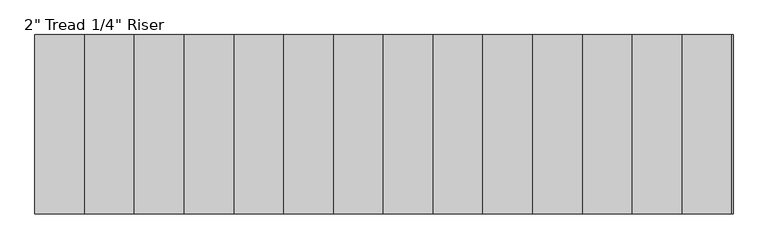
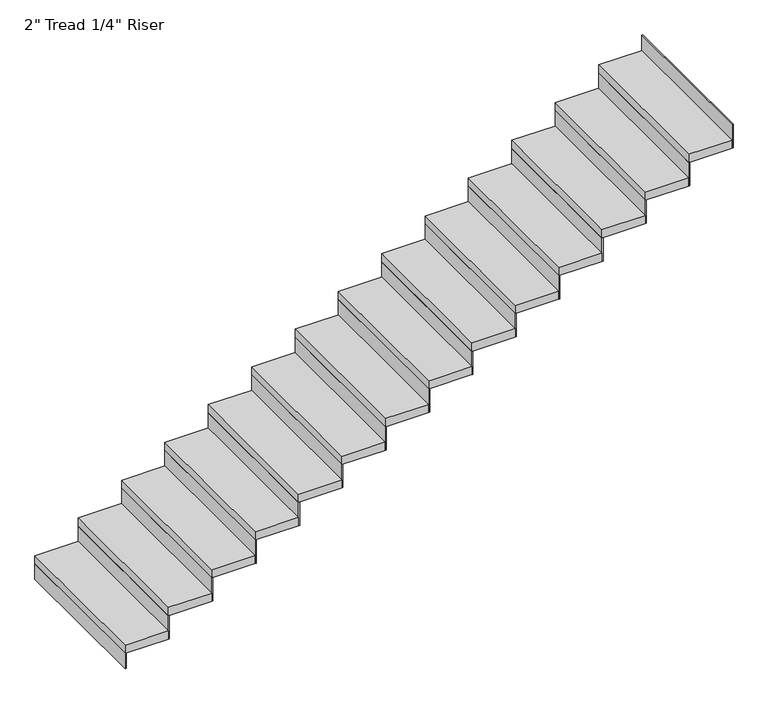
"""IFC4 building model written with IfcOpenShell, lengths in millimetres: stair flight geometry."""

import ifcopenshell
import ifcopenshell.guid

model = None  # the IFC model being written
_history = None  # IfcOwnerHistory: only IFC2X3 demands one
_inside = {}  # id of a spatial element -> (the spatial element, [elements in it])
_under = {}  # id of a project, library or spatial element -> (it, [spatial elements below it])
_declared = {}  # id of a project -> (the project, [libraries it declares])
_typed = {}  # id of a type object -> (the type object, [elements of that type])
_made_of = {}  # id of a material, layer set ... -> (it, [elements and type objects made of it])


def new_model(schema):
    """Start an empty IFC model of exactly this schema.

    Asked for "IFC4X3", IfcOpenShell would pick the latest addendum, in which some entities
    have other attributes; the version numbers below select the first issue.
    IFC2X3 requires an IfcOwnerHistory on every rooted entity: one is made here for all.
    """
    global model, _history
    if schema == "IFC4X3":
        model = ifcopenshell.file(schema_version=(4, 3, 0, 0))
    else:
        model = ifcopenshell.file(schema=schema)
    _inside.clear()
    _under.clear()
    _declared.clear()
    _typed.clear()
    _made_of.clear()
    _history = None
    if model.schema == "IFC2X3":
        org = make("IfcOrganization", Name="unknown")
        user = make(
            "IfcPersonAndOrganization",
            ThePerson=make("IfcPerson", FamilyName="unknown"),
            TheOrganization=org,
        )
        app = make(
            "IfcApplication",
            ApplicationDeveloper=org,
            Version="unknown",
            ApplicationFullName="unknown",
            ApplicationIdentifier="unknown",
        )
        _history = make(
            "IfcOwnerHistory",
            OwningUser=user,
            OwningApplication=app,
            ChangeAction="ADDED",
            CreationDate=0,
        )
    return model


def make(cls, **values):
    """One entity of the class cls with the attributes given. An attribute that is None is left unset."""
    return model.create_entity(
        cls, **{name: value for name, value in values.items() if value is not None}
    )


def rooted(cls, **values):
    """An entity with a GlobalId (a new one), such as an element, a storey or a relation."""
    return make(cls, GlobalId=ifcopenshell.guid.new(), OwnerHistory=_history, **values)


def si_unit(unit_type, name, prefix=None):
    """IfcSIUnit, for example si_unit("LENGTHUNIT", "METRE", prefix="MILLI")."""
    return make("IfcSIUnit", UnitType=unit_type, Prefix=prefix, Name=name)


def assignment(units):
    """IfcUnitAssignment: the units of a project."""
    return None if units is None else make("IfcUnitAssignment", Units=units)


def point(xyz):
    """IfcCartesianPoint."""
    return None if xyz is None else make("IfcCartesianPoint", Coordinates=xyz)


def direction(xyz):
    """IfcDirection."""
    return None if xyz is None else make("IfcDirection", DirectionRatios=xyz)


def frame(location, z_axis=None, x_axis=None):
    """IfcAxis2Placement3D, a coordinate frame: its origin and axes. An axis left out is left unset."""
    return make(
        "IfcAxis2Placement3D",
        Location=point(location),
        Axis=direction(z_axis),
        RefDirection=direction(x_axis),
    )


def origin():
    """The frame at (0, 0, 0) with its axes left unset."""
    return frame((0.0, 0.0, 0.0))


def origin_with_axes():
    """The frame at (0, 0, 0) with the z axis (0, 0, 1) and the x axis (1, 0, 0) written out."""
    return frame((0.0, 0.0, 0.0), z_axis=(0.0, 0.0, 1.0), x_axis=(1.0, 0.0, 0.0))


def place(relative_to, where):
    """IfcLocalPlacement: puts the frame where relative to a parent placement (None: the world)."""
    return make(
        "IfcLocalPlacement", PlacementRelTo=relative_to, RelativePlacement=where
    )


def context(
    kind, dimensions, precision=None, world=None, true_north=None, identifier=None
):
    """IfcGeometricRepresentationContext, for example the 3D "Model" context."""
    return make(
        "IfcGeometricRepresentationContext",
        ContextIdentifier=identifier,
        ContextType=kind,
        CoordinateSpaceDimension=dimensions,
        Precision=precision,
        WorldCoordinateSystem=world,
        TrueNorth=true_north,
    )


def project(units=None, contexts=None):
    """IfcProject with its units and contexts."""
    return rooted(
        "IfcProject",
        Name="project",
        RepresentationContexts=contexts,
        UnitsInContext=assignment(units),
    )


def spatial(cls, under=None, at=None, **own):
    """A site, building, storey or space (cls), placed at a placement, below another one or the project."""
    s = rooted(cls, ObjectPlacement=at, **own)
    if under is not None:
        _under.setdefault(under.id(), (under, []))[1].append(s)
    return s


def polyline(points):
    """IfcPolyline through the points."""
    return make("IfcPolyline", Points=[point(p) for p in points])


def outline(outer, holes=None, kind="AREA"):
    """IfcArbitraryClosedProfileDef: a profile drawn as a closed curve; with holes, ...WithVoids."""
    if holes is None:
        return make("IfcArbitraryClosedProfileDef", ProfileType=kind, OuterCurve=outer)
    return make(
        "IfcArbitraryProfileDefWithVoids",
        ProfileType=kind,
        OuterCurve=outer,
        InnerCurves=holes,
    )


def extrude(swept, where, along, depth):
    """IfcExtrudedAreaSolid: the profile swept, set in the frame where, extruded along a direction by depth."""
    return make(
        "IfcExtrudedAreaSolid",
        SweptArea=swept,
        Position=where,
        ExtrudedDirection=direction(along),
        Depth=depth,
    )


def shape(context_of_items, identifier, shape_type, items):
    """IfcShapeRepresentation: the items that make up one representation, for example the "Body"."""
    return make(
        "IfcShapeRepresentation",
        ContextOfItems=context_of_items,
        RepresentationIdentifier=identifier,
        RepresentationType=shape_type,
        Items=items,
    )


def source(mapping_origin, context_of_items, identifier, shape_type, items):
    """IfcRepresentationMap: a shape defined once, which mapped items show again and again."""
    return make(
        "IfcRepresentationMap",
        MappingOrigin=mapping_origin,
        MappedRepresentation=shape(context_of_items, identifier, shape_type, items),
    )


def transform(
    local_origin,
    x_axis=None,
    y_axis=None,
    z_axis=None,
    scale=None,
    scale2=None,
    scale3=None,
    uniform=True,
):
    """IfcCartesianTransformationOperator3D, or its non-uniform kind. x_axis, y_axis, z_axis: its Axis1, 2, 3."""
    if uniform:
        return make(
            "IfcCartesianTransformationOperator3D",
            Axis1=direction(x_axis),
            Axis2=direction(y_axis),
            LocalOrigin=point(local_origin),
            Scale=scale,
            Axis3=direction(z_axis),
        )
    return make(
        "IfcCartesianTransformationOperator3DnonUniform",
        Axis1=direction(x_axis),
        Axis2=direction(y_axis),
        LocalOrigin=point(local_origin),
        Scale=scale,
        Axis3=direction(z_axis),
        Scale2=scale2,
        Scale3=scale3,
    )


def mapped(mapping_source, mapping_target):
    """IfcMappedItem: shows the shape of a source again, moved by a transform."""
    return make(
        "IfcMappedItem", MappingSource=mapping_source, MappingTarget=mapping_target
    )


def made_of(thing, what):
    """Note that an element or type object is made of a material, layer set ...; save() writes the relation."""
    if what is not None:
        _made_of.setdefault(what.id(), (what, []))[1].append(thing)
    return thing


def element(
    cls,
    number,
    at=None,
    inside=None,
    cuts=None,
    type_object=None,
    material=None,
    context=None,
    identifier="Body",
    shape_type=None,
    held_by="IfcProductDefinitionShape",
    body=None,
    shapes=None,
    **own,
):
    """One element of the class cls, such as IfcWall. Its Tag is "e" and its number.

    at: its placement. inside: the storey or other place that contains it. cuts: it is an
    opening in that element (IfcRelVoidsElement). A single representation is given by context,
    identifier, shape_type and body (its items); several are given by shapes. held_by: the class
    of the entity that holds the representations. save() writes the other relations.
    """
    e = rooted(cls, Tag="e%d" % number, ObjectPlacement=at, **own)
    if body is not None:
        shapes = [shape(context, identifier, shape_type, body)]
    if shapes is not None:
        e.Representation = make(held_by, Representations=shapes)
    if inside is not None:
        _inside.setdefault(inside.id(), (inside, []))[1].append(e)
    if cuts is not None:
        rooted(
            "IfcRelVoidsElement", RelatingBuildingElement=cuts, RelatedOpeningElement=e
        )
    if type_object is not None:
        _typed.setdefault(type_object.id(), (type_object, []))[1].append(e)
    return made_of(e, material)


def aggregate(whole, parts):
    """IfcRelAggregates: a whole, such as a stair, and the parts it consists of."""
    return rooted("IfcRelAggregates", RelatingObject=whole, RelatedObjects=parts)


def save(model, path):
    """Write the relations noted so far, then the file.

    IfcRelAggregates (storeys below a building ...), IfcRelContainedInSpatialStructure (elements
    in a storey), IfcRelDefinesByType, IfcRelAssociatesMaterial and IfcRelDeclares: one each for
    every whole, place, type object, material and project.
    """
    for whole, parts in _under.values():
        aggregate(whole, parts)
    for where, things in _inside.values():
        rooted(
            "IfcRelContainedInSpatialStructure",
            RelatedElements=things,
            RelatingStructure=where,
        )
    for kind, things in _typed.values():
        rooted("IfcRelDefinesByType", RelatedObjects=things, RelatingType=kind)
    for what, things in _made_of.values():
        rooted("IfcRelAssociatesMaterial", RelatedObjects=things, RelatingMaterial=what)
    for by, libraries in _declared.values():
        rooted("IfcRelDeclares", RelatingContext=by, RelatedDefinitions=libraries)
    model.write(path)


def stair_flight_662a255a(model_context):
    return source(origin(), model_context, "Body", "SweptSolid", [
        extrude(outline(polyline([(-2451.0963139, 28700.5361774), (-2457.4463139, 28700.5361774), (-2457.4463139, 29614.9361774), (-2451.0963139, 29614.9361774), (-2451.0963139, 28700.5361774)])), origin_with_axes(), (0.0, 0.0, 1.0), 94.3428571),
        extrude(outline(polyline([(-2203.4463139, 29614.9361774), (-2203.4463139, 28700.5361774), (-2457.4463139, 28700.5361774), (-2457.4463139, 29614.9361774), (-2203.4463139, 29614.9361774)])), frame((0.0, 0.0, 94.3428571), z_axis=(0.0, 0.0, 1.0), x_axis=(1.0, 0.0, 0.0)), (0.0, 0.0, 1.0), 50.8),
        extrude(outline(polyline([(-2197.0963139, 28700.5361774), (-2203.4463139, 28700.5361774), (-2203.4463139, 29614.9361774), (-2197.0963139, 29614.9361774), (-2197.0963139, 28700.5361774)])), frame((0.0, 0.0, 94.3428571), z_axis=(0.0, 0.0, 1.0), x_axis=(1.0, 0.0, 0.0)), (0.0, 0.0, 1.0), 145.1428571),
        extrude(outline(polyline([(-1949.4463139, 29614.9361774), (-1949.4463139, 28700.5361774), (-2203.4463139, 28700.5361774), (-2203.4463139, 29614.9361774), (-1949.4463139, 29614.9361774)])), frame((0.0, 0.0, 239.4857143), z_axis=(0.0, 0.0, 1.0), x_axis=(1.0, 0.0, 0.0)), (0.0, 0.0, 1.0), 50.8),
        extrude(outline(polyline([(-1943.0963139, 28700.5361774), (-1949.4463139, 28700.5361774), (-1949.4463139, 29614.9361774), (-1943.0963139, 29614.9361774), (-1943.0963139, 28700.5361774)])), frame((0.0, 0.0, 239.4857143), z_axis=(0.0, 0.0, 1.0), x_axis=(1.0, 0.0, 0.0)), (0.0, 0.0, 1.0), 145.1428571),
        extrude(outline(polyline([(-1695.4463139, 29614.9361774), (-1695.4463139, 28700.5361774), (-1949.4463139, 28700.5361774), (-1949.4463139, 29614.9361774), (-1695.4463139, 29614.9361774)])), frame((0.0, 0.0, 384.6285714), z_axis=(0.0, 0.0, 1.0), x_axis=(1.0, 0.0, 0.0)), (0.0, 0.0, 1.0), 50.8),
        extrude(outline(polyline([(-1689.0963139, 28700.5361774), (-1695.4463139, 28700.5361774), (-1695.4463139, 29614.9361774), (-1689.0963139, 29614.9361774), (-1689.0963139, 28700.5361774)])), frame((0.0, 0.0, 384.6285714), z_axis=(0.0, 0.0, 1.0), x_axis=(1.0, 0.0, 0.0)), (0.0, 0.0, 1.0), 145.1428571),
        extrude(outline(polyline([(-1441.4463139, 29614.9361774), (-1441.4463139, 28700.5361774), (-1695.4463139, 28700.5361774), (-1695.4463139, 29614.9361774), (-1441.4463139, 29614.9361774)])), frame((0.0, 0.0, 529.7714286), z_axis=(0.0, 0.0, 1.0), x_axis=(1.0, 0.0, 0.0)), (0.0, 0.0, 1.0), 50.8),
        extrude(outline(polyline([(-1435.0963139, 28700.5361774), (-1441.4463139, 28700.5361774), (-1441.4463139, 29614.9361774), (-1435.0963139, 29614.9361774), (-1435.0963139, 28700.5361774)])), frame((0.0, 0.0, 529.7714286), z_axis=(0.0, 0.0, 1.0), x_axis=(1.0, 0.0, 0.0)), (0.0, 0.0, 1.0), 145.1428571),
        extrude(outline(polyline([(-1187.4463139, 29614.9361774), (-1187.4463139, 28700.5361774), (-1441.4463139, 28700.5361774), (-1441.4463139, 29614.9361774), (-1187.4463139, 29614.9361774)])), frame((0.0, 0.0, 674.9142857), z_axis=(0.0, 0.0, 1.0), x_axis=(1.0, 0.0, 0.0)), (0.0, 0.0, 1.0), 50.8),
        extrude(outline(polyline([(-1181.0963139, 28700.5361774), (-1187.4463139, 28700.5361774), (-1187.4463139, 29614.9361774), (-1181.0963139, 29614.9361774), (-1181.0963139, 28700.5361774)])), frame((0.0, 0.0, 674.9142857), z_axis=(0.0, 0.0, 1.0), x_axis=(1.0, 0.0, 0.0)), (0.0, 0.0, 1.0), 145.1428571),
        extrude(outline(polyline([(-933.4463139, 29614.9361774), (-933.4463139, 28700.5361774), (-1187.4463139, 28700.5361774), (-1187.4463139, 29614.9361774), (-933.4463139, 29614.9361774)])), frame((0.0, 0.0, 820.0571429), z_axis=(0.0, 0.0, 1.0), x_axis=(1.0, 0.0, 0.0)), (0.0, 0.0, 1.0), 50.8),
        extrude(outline(polyline([(-927.0963139, 28700.5361774), (-933.4463139, 28700.5361774), (-933.4463139, 29614.9361774), (-927.0963139, 29614.9361774), (-927.0963139, 28700.5361774)])), frame((0.0, 0.0, 820.0571429), z_axis=(0.0, 0.0, 1.0), x_axis=(1.0, 0.0, 0.0)), (0.0, 0.0, 1.0), 145.1428571),
        extrude(outline(polyline([(-679.4463139, 29614.9361774), (-679.4463139, 28700.5361774), (-933.4463139, 28700.5361774), (-933.4463139, 29614.9361774), (-679.4463139, 29614.9361774)])), frame((0.0, 0.0, 965.2), z_axis=(0.0, 0.0, 1.0), x_axis=(1.0, 0.0, 0.0)), (0.0, 0.0, 1.0), 50.8),
        extrude(outline(polyline([(-673.0963139, 28700.5361774), (-679.4463139, 28700.5361774), (-679.4463139, 29614.9361774), (-673.0963139, 29614.9361774), (-673.0963139, 28700.5361774)])), frame((0.0, 0.0, 965.2), z_axis=(0.0, 0.0, 1.0), x_axis=(1.0, 0.0, 0.0)), (0.0, 0.0, 1.0), 145.1428571),
        extrude(outline(polyline([(-425.4463139, 29614.9361774), (-425.4463139, 28700.5361774), (-679.4463139, 28700.5361774), (-679.4463139, 29614.9361774), (-425.4463139, 29614.9361774)])), frame((0.0, 0.0, 1110.3428571), z_axis=(0.0, 0.0, 1.0), x_axis=(1.0, 0.0, 0.0)), (0.0, 0.0, 1.0), 50.8),
        extrude(outline(polyline([(-419.0963139, 28700.5361774), (-425.4463139, 28700.5361774), (-425.4463139, 29614.9361774), (-419.0963139, 29614.9361774), (-419.0963139, 28700.5361774)])), frame((0.0, 0.0, 1110.3428571), z_axis=(0.0, 0.0, 1.0), x_axis=(1.0, 0.0, 0.0)), (0.0, 0.0, 1.0), 145.1428571),
        extrude(outline(polyline([(-171.4463139, 29614.9361774), (-171.4463139, 28700.5361774), (-425.4463139, 28700.5361774), (-425.4463139, 29614.9361774), (-171.4463139, 29614.9361774)])), frame((0.0, 0.0, 1255.4857143), z_axis=(0.0, 0.0, 1.0), x_axis=(1.0, 0.0, 0.0)), (0.0, 0.0, 1.0), 50.8),
        extrude(outline(polyline([(-165.0963139, 28700.5361774), (-171.4463139, 28700.5361774), (-171.4463139, 29614.9361774), (-165.0963139, 29614.9361774), (-165.0963139, 28700.5361774)])), frame((0.0, 0.0, 1255.4857143), z_axis=(0.0, 0.0, 1.0), x_axis=(1.0, 0.0, 0.0)), (0.0, 0.0, 1.0), 145.1428571),
        extrude(outline(polyline([(82.5536861, 29614.9361774), (82.5536861, 28700.5361774), (-171.4463139, 28700.5361774), (-171.4463139, 29614.9361774), (82.5536861, 29614.9361774)])), frame((0.0, 0.0, 1400.6285714), z_axis=(0.0, 0.0, 1.0), x_axis=(1.0, 0.0, 0.0)), (0.0, 0.0, 1.0), 50.8),
        extrude(outline(polyline([(88.9036861, 28700.5361774), (82.5536861, 28700.5361774), (82.5536861, 29614.9361774), (88.9036861, 29614.9361774), (88.9036861, 28700.5361774)])), frame((0.0, 0.0, 1400.6285714), z_axis=(0.0, 0.0, 1.0), x_axis=(1.0, 0.0, 0.0)), (0.0, 0.0, 1.0), 145.1428571),
        extrude(outline(polyline([(336.5536861, 29614.9361774), (336.5536861, 28700.5361774), (82.5536861, 28700.5361774), (82.5536861, 29614.9361774), (336.5536861, 29614.9361774)])), frame((0.0, 0.0, 1545.7714286), z_axis=(0.0, 0.0, 1.0), x_axis=(1.0, 0.0, 0.0)), (0.0, 0.0, 1.0), 50.8),
        extrude(outline(polyline([(342.9036861, 28700.5361774), (336.5536861, 28700.5361774), (336.5536861, 29614.9361774), (342.9036861, 29614.9361774), (342.9036861, 28700.5361774)])), frame((0.0, 0.0, 1545.7714286), z_axis=(0.0, 0.0, 1.0), x_axis=(1.0, 0.0, 0.0)), (0.0, 0.0, 1.0), 145.1428571),
        extrude(outline(polyline([(590.5536861, 29614.9361774), (590.5536861, 28700.5361774), (336.5536861, 28700.5361774), (336.5536861, 29614.9361774), (590.5536861, 29614.9361774)])), frame((0.0, 0.0, 1690.9142857), z_axis=(0.0, 0.0, 1.0), x_axis=(1.0, 0.0, 0.0)), (0.0, 0.0, 1.0), 50.8),
        extrude(outline(polyline([(596.9036861, 28700.5361774), (590.5536861, 28700.5361774), (590.5536861, 29614.9361774), (596.9036861, 29614.9361774), (596.9036861, 28700.5361774)])), frame((0.0, 0.0, 1690.9142857), z_axis=(0.0, 0.0, 1.0), x_axis=(1.0, 0.0, 0.0)), (0.0, 0.0, 1.0), 145.1428571),
        extrude(outline(polyline([(844.5536861, 29614.9361774), (844.5536861, 28700.5361774), (590.5536861, 28700.5361774), (590.5536861, 29614.9361774), (844.5536861, 29614.9361774)])), frame((0.0, 0.0, 1836.0571429), z_axis=(0.0, 0.0, 1.0), x_axis=(1.0, 0.0, 0.0)), (0.0, 0.0, 1.0), 50.8),
        extrude(outline(polyline([(850.9036861, 28700.5361774), (844.5536861, 28700.5361774), (844.5536861, 29614.9361774), (850.9036861, 29614.9361774), (850.9036861, 28700.5361774)])), frame((0.0, 0.0, 1836.0571429), z_axis=(0.0, 0.0, 1.0), x_axis=(1.0, 0.0, 0.0)), (0.0, 0.0, 1.0), 145.1428571),
        extrude(outline(polyline([(1104.9036861, 28700.5361774), (1098.5536861, 28700.5361774), (1098.5536861, 29614.9361774), (1104.9036861, 29614.9361774), (1104.9036861, 28700.5361774)])), frame((0.0, 0.0, 1981.2), z_axis=(0.0, 0.0, 1.0), x_axis=(1.0, 0.0, 0.0)), (0.0, 0.0, 1.0), 145.1428571),
        extrude(outline(polyline([(1098.5536861, 29614.9361774), (1098.5536861, 28700.5361774), (844.5536861, 28700.5361774), (844.5536861, 29614.9361774), (1098.5536861, 29614.9361774)])), frame((0.0, 0.0, 1981.2), z_axis=(0.0, 0.0, 1.0), x_axis=(1.0, 0.0, 0.0)), (0.0, 0.0, 1.0), 50.8),
    ])


if __name__ == "__main__":
    model = new_model("IFC4")
    model_context = context("Model", 3, world=origin())
    ifc_project = project(units=[si_unit("LENGTHUNIT", "METRE", prefix="MILLI")], contexts=[model_context])
    site = spatial("IfcSite", under=ifc_project)
    building = spatial("IfcBuilding", under=site)
    placement = place(None, origin())
    stair_flight_shape = stair_flight_662a255a(model_context)
    element("IfcStairFlight", 1, ObjectType="2\" Tread 1/4\" Riser", at=placement, inside=building, context=model_context, shape_type="MappedRepresentation", body=[
        mapped(stair_flight_shape, transform((0.0, 0.0, 0.0), x_axis=(1.0, 0.0, 0.0), y_axis=(0.0, 1.0, 0.0), z_axis=(0.0, 0.0, 1.0))),
    ])
    save(model, "model.ifc")
